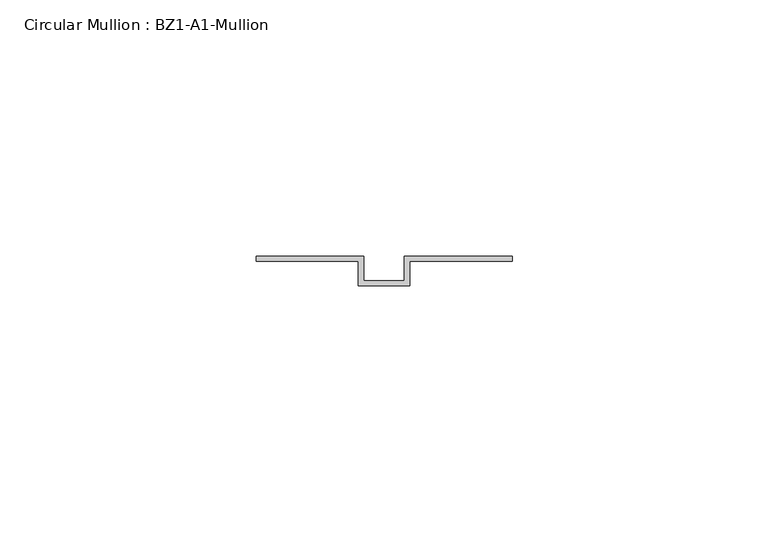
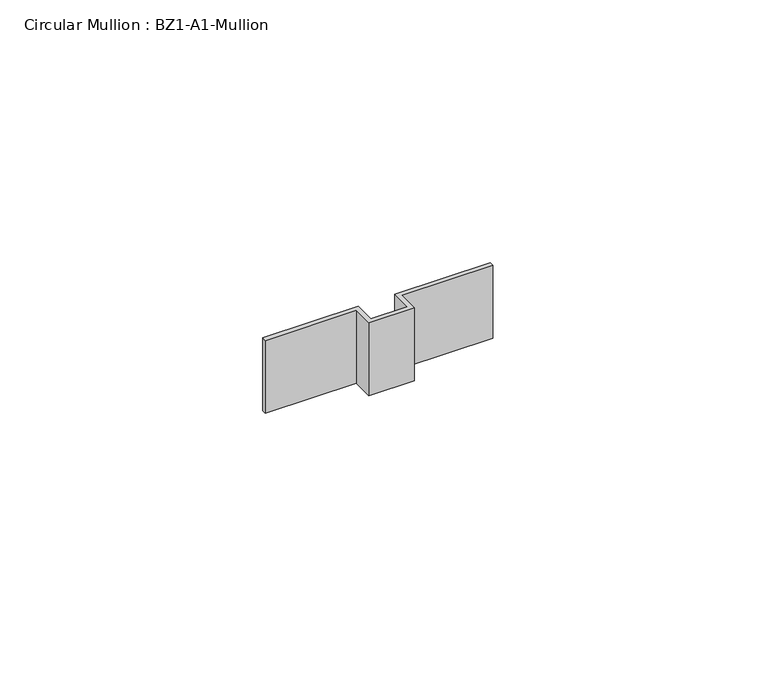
"""IFC4 building model written with IfcOpenShell, lengths in millimetres: member geometry, Circular Mullion : BZ1-A1-Mullion."""

from ifc_helpers import new_model, si_unit, frame, origin, place, context, project, spatial, polyline, outline, extrude, source, transform, mapped, element, save


def circular_mullion_bz1_a1_mullion_5795780b(model_context):
    return source(origin(), model_context, "Body", "SweptSolid", [
        extrude(outline(polyline([(-25.0, 11.0), (-4.0, 11.0), (-4.0, 6.2), (4.0, 6.2), (4.0, 11.0), (25.0, 11.0), (25.0, 10.0), (5.0, 10.0), (5.0, 5.2), (-5.0, 5.2), (-5.0, 10.0), (-25.0, 10.0), (-25.0, 11.0)])), frame((0.0, 0.0, -16.9444444), z_axis=(0.0, 0.0, 1.0), x_axis=(1.0, 0.0, 0.0)), (0.0, 0.0, 1.0), 16.9444444),
    ])


if __name__ == "__main__":
    model = new_model("IFC4")
    model_context = context("Model", 3, world=origin())
    ifc_project = project(units=[si_unit("LENGTHUNIT", "METRE", prefix="MILLI")], contexts=[model_context])
    site = spatial("IfcSite", under=ifc_project)
    building = spatial("IfcBuilding", under=site)
    placement = place(None, origin())
    circular_mullion_bz1_a1_mullion_shape = circular_mullion_bz1_a1_mullion_5795780b(model_context)
    element("IfcMember", 1, ObjectType="Circular Mullion : BZ1-A1-Mullion", at=placement, inside=building, context=model_context, shape_type="MappedRepresentation", body=[
        mapped(circular_mullion_bz1_a1_mullion_shape, transform((0.0, 0.0, 0.0), x_axis=(1.0, 0.0, 0.0), y_axis=(0.0, 1.0, 0.0), z_axis=(0.0, 0.0, 1.0))),
    ])
    save(model, "model.ifc")
